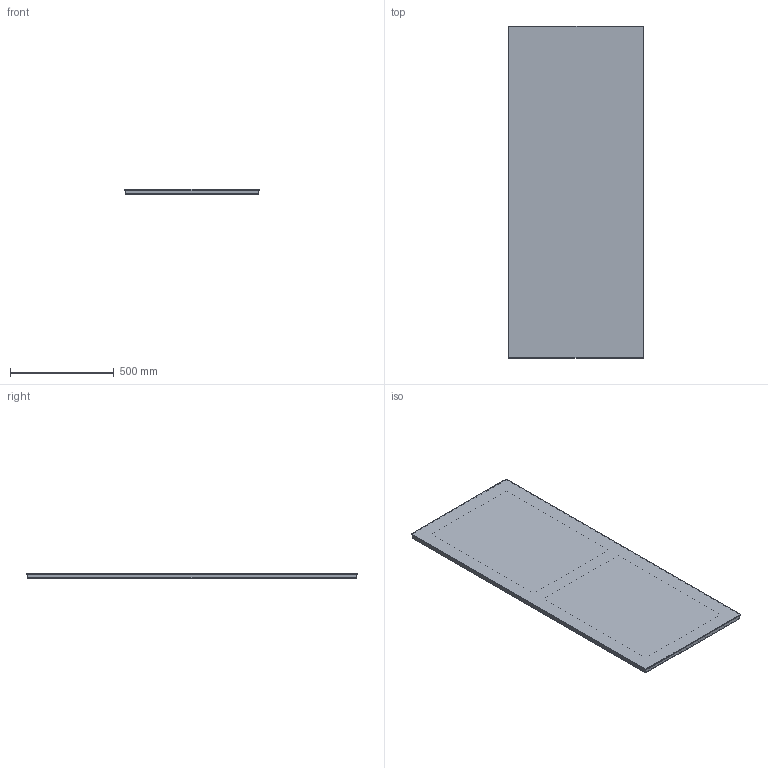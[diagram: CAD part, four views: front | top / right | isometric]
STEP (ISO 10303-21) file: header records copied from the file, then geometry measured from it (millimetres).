
FILE_DESCRIPTION((''),'2;1');
FILE_NAME('C:\AutodeskVault\AreaLavoro\Progetti\SoVeT Italia\3. Specchi_Mirrors\Boston\Web file\Boston Web\P5065.stp','2012-07-19T15:52:23',('Gianluca'),('So.Ve.T. s.r.l.'),'Autodesk Inventor 2013','Autodesk Inventor 2013','IL PROGETTO E'' DI ESCLUSIVA PROPRIETA'' DELLA SO.VE.T. srl. E'' VIETATA OGNI RIPRODUZIONE TOTALE O PARZIALE E QUALSIASI UTILIZZO NON AUTORIZZATO. ');
FILE_SCHEMA(('AUTOMOTIVE_DESIGN { 1 0 10303 214 1 1 1 1 }'));
Length unit declared in the file: millimetre
Products named in the file (1): P5065 Contorno semplificato
Bounding box: 650 x 1600 x 26.01 mm (x, y, z)
Volume: 9392633.2 mm3; surface area: 2408941.7 mm2
Topology: 1 solids, 2 shells, 73 faces, 160 edges, 96 vertices
Faces by surface type: plane 55, cylinder 10, cone 8
Entity records: 2060 total; most frequent: DIRECTION 332, CARTESIAN_POINT 330, ORIENTED_EDGE 320, EDGE_CURVE 160, VECTOR 136, LINE 136, AXIS2_PLACEMENT_3D 98, VERTEX_POINT 96
